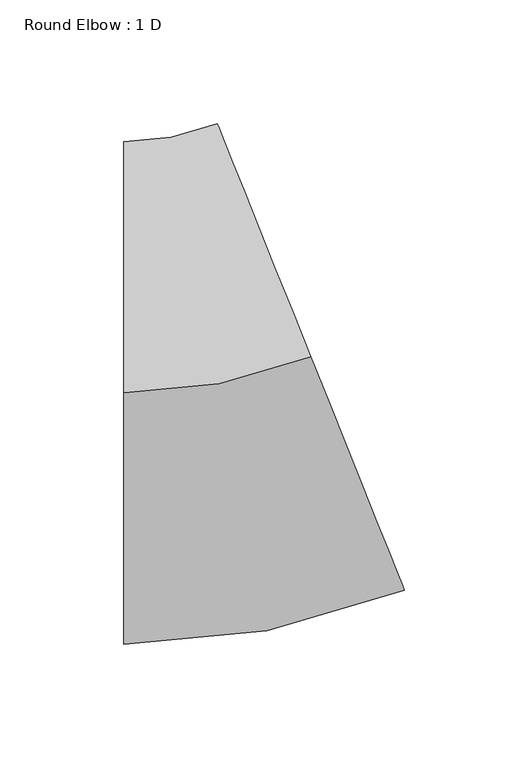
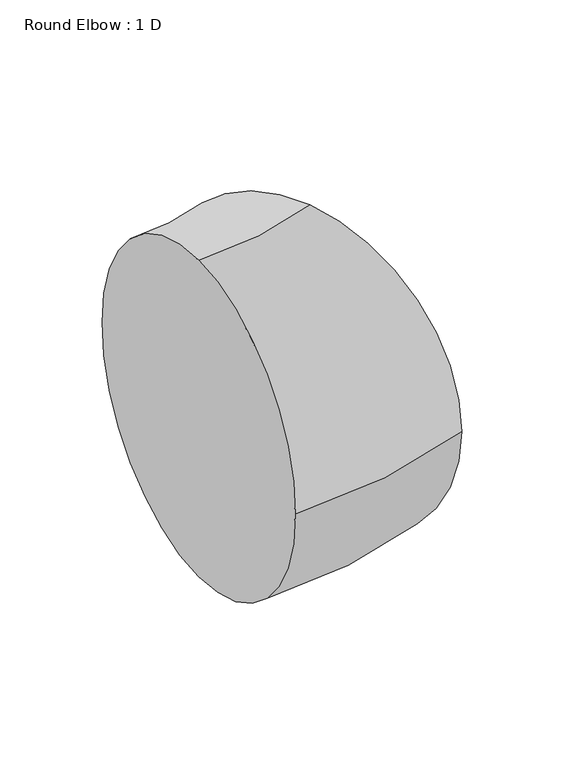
"""IFC4 building model written with IfcOpenShell, lengths in millimetres: duct fitting geometry, Round Elbow : 1 D."""

from ifc_helpers import new_model, si_unit, point, frame, origin, place, context, project, spatial, circle_curve, ellipse_curve, trimmed, source, transform, mapped, element, save
from ifc_brep_helpers import plane_surface, revolved_surface, advanced_brep


def round_elbow_1_d_5bbd179f(model_context):
    return source(origin(), model_context, "Body", "AdvancedBrep", [
        advanced_brep(
        [(-39.2413022, 0.0, 101.6), (-39.2413022, 101.6, 0.0), (-39.2413022, 0.0, -101.6), (-39.2413022, -101.6, 0.0), (36.4196015, 14.6113799, 101.6), (74.2500534, -79.6829302, 0.0), (36.4196015, 14.6113799, -101.6), (-1.4108503, 108.9056899, 0.0)],
        [
            (0, 1, circle_curve(frame((-39.2413022, 0.0, 0.0), z_axis=(-1.0, 0.0, 0.0), x_axis=(0.0, 1.0, 0.0)), 101.6)),
            (1, 2, circle_curve(frame((-39.2413022, 0.0, 0.0), z_axis=(-1.0, 0.0, 0.0), x_axis=(0.0, 1.0, 0.0)), 101.6)),
            (2, 3, circle_curve(frame((-39.2413022, 0.0, 0.0), z_axis=(-1.0, 0.0, 0.0), x_axis=(0.0, 1.0, 0.0)), 101.6)),
            (3, 0, circle_curve(frame((-39.2413022, 0.0, 0.0), z_axis=(-1.0, 0.0, 0.0), x_axis=(0.0, 1.0, 0.0)), 101.6)),
            (4, 5, circle_curve(frame((36.4196015, 14.6113799, 0.0), z_axis=(0.928093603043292, 0.37234696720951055, 0.0), x_axis=(-0.37234696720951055, 0.928093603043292, 0.0)), 101.6)),
            (5, 6, circle_curve(frame((36.4196015, 14.6113799, 0.0), z_axis=(0.928093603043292, 0.37234696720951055, 0.0), x_axis=(-0.37234696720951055, 0.928093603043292, 0.0)), 101.6)),
            (6, 7, circle_curve(frame((36.4196015, 14.6113799, 0.0), z_axis=(0.928093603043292, 0.37234696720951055, 0.0), x_axis=(-0.37234696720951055, 0.928093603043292, 0.0)), 101.6)),
            (7, 4, circle_curve(frame((36.4196015, 14.6113799, 0.0), z_axis=(0.928093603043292, 0.37234696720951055, 0.0), x_axis=(-0.37234696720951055, 0.928093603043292, 0.0)), 101.6)),
            (7, 1, circle_curve(frame((-39.2413022, 203.2, 0.0), z_axis=(0.0, 0.0, -1.0), x_axis=(0.0, -1.0, 0.0)), 101.6)),
            (0, 4, circle_curve(frame((-39.2413022, 203.2, 101.6), z_axis=(0.0, 0.0, 1.0), x_axis=(0.0, -1.0, 0.0)), 203.2)),
            (6, 2, circle_curve(frame((-39.2413022, 203.2, -101.6), z_axis=(0.0, 0.0, -1.0), x_axis=(0.0, -1.0, 0.0)), 203.2)),
            (5, 3, circle_curve(frame((-39.2413022, 203.2, 0.0), z_axis=(0.0, 0.0, -1.0), x_axis=(0.0, -1.0, 0.0)), 304.8)),
        ],
        [
            plane_surface(frame((-39.2413022, 0.0, 0.0), z_axis=(-1.0, 0.0, 0.0), x_axis=(0.0, 0.0, 1.0))),
            plane_surface(frame((36.4196015, 14.6113799, 0.0), z_axis=(0.928093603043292, 0.37234696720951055, 0.0), x_axis=(0.0, 0.0, 1.0))),
            revolved_surface(trimmed(ellipse_curve(frame((-39.2413022, 0.0, 0.0), z_axis=(-1.0, 0.0, 0.0), x_axis=(0.0, 1.0, 0.0)), 101.6, 101.6), [point((-39.2413022, 0.0, 101.6))], [point((-39.2413022, 101.6, 0.0))], True, "CARTESIAN"), (-39.2413022, 203.2, 0.0), (0.0, 0.0, 1.0)),
            revolved_surface(trimmed(ellipse_curve(frame((-39.2413022, 0.0, 0.0), z_axis=(-1.0, 0.0, 0.0), x_axis=(0.0, 1.0, 0.0)), 101.6, 101.6), [point((-39.2413022, 101.6, 0.0))], [point((-39.2413022, 0.0, -101.6))], True, "CARTESIAN"), (-39.2413022, 203.2, 0.0), (0.0, 0.0, 1.0)),
            revolved_surface(trimmed(ellipse_curve(frame((-39.2413022, 0.0, 0.0), z_axis=(-1.0, 0.0, 0.0), x_axis=(0.0, 1.0, 0.0)), 101.6, 101.6), [point((-39.2413022, 0.0, -101.6))], [point((-39.2413022, -101.6, 0.0))], True, "CARTESIAN"), (-39.2413022, 203.2, 0.0), (0.0, 0.0, 1.0)),
            revolved_surface(trimmed(ellipse_curve(frame((-39.2413022, 0.0, 0.0), z_axis=(-1.0, 0.0, 0.0), x_axis=(0.0, 1.0, 0.0)), 101.6, 101.6), [point((-39.2413022, -101.6, 0.0))], [point((-39.2413022, 0.0, 101.6))], True, "CARTESIAN"), (-39.2413022, 203.2, 0.0), (0.0, 0.0, 1.0)),
        ],
        [
            (0, [[1, 2, 3, 4]]),
            (1, [[5, 6, 7, 8]]),
            (2, [[9, -1, 10, -8]]),
            (3, [[11, -2, -9, -7]]),
            (4, [[12, -3, -11, -6]]),
            (5, [[-10, -4, -12, -5]]),
        ],
    ),
    ])


if __name__ == "__main__":
    model = new_model("IFC4")
    model_context = context("Model", 3, world=origin())
    ifc_project = project(units=[si_unit("LENGTHUNIT", "METRE", prefix="MILLI")], contexts=[model_context])
    site = spatial("IfcSite", under=ifc_project)
    building = spatial("IfcBuilding", under=site)
    placement = place(None, origin())
    round_elbow_1_d_shape = round_elbow_1_d_5bbd179f(model_context)
    element("IfcDuctFitting", 1, ObjectType="Round Elbow : 1 D", at=placement, inside=building, context=model_context, shape_type="MappedRepresentation", body=[
        mapped(round_elbow_1_d_shape, transform((0.0, 0.0, 0.0), x_axis=(1.0, 0.0, 0.0), y_axis=(0.0, 1.0, 0.0), z_axis=(0.0, 0.0, 1.0))),
    ])
    save(model, "model.ifc")
